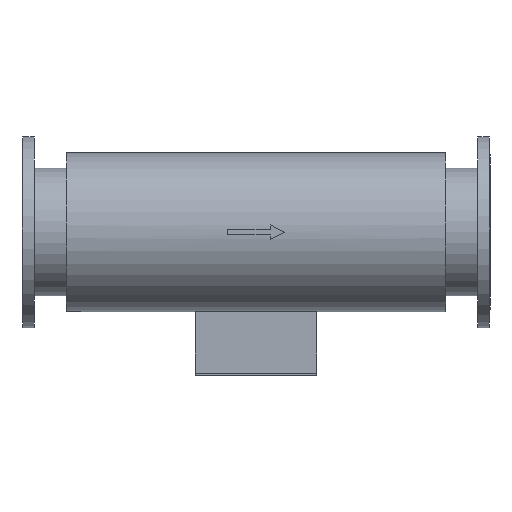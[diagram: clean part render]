
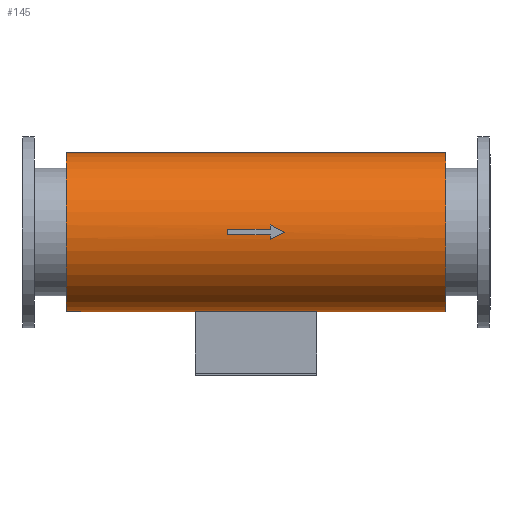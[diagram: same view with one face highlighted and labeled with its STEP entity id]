
A CAD part, front view. The second image highlights one B-rep face of the part: STEP entity #145.
In plain terms, the highlighted cylindrical face has radius 166.3 mm (diameter 332.6 mm), a partial arc.
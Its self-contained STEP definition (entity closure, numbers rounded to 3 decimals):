
#145=ADVANCED_FACE('',(#1264,#1265,#1266),#1263,.T.);
#1263=CYLINDRICAL_SURFACE('',#1898,166.3);
#1264=FACE_OUTER_BOUND('',#1899,.T.);
#1265=FACE_BOUND('',#1900,.T.);
#1266=FACE_BOUND('',#1901,.T.);
#1895=CARTESIAN_POINT('',(603.,0.,0.));
#1896=DIRECTION('',(1.,0.,0.));
#1897=DIRECTION('',(0.,0.009,1.));
#1898=AXIS2_PLACEMENT_3D('',#1895,#1896,#1897);
#1899=EDGE_LOOP('',(#2462,#2463,#2464,#2465,#2466,#2467));
#1900=EDGE_LOOP('',(#2468,#2469,#2470,#2471,#2472,#2473,#2474));
#1901=EDGE_LOOP('',(#2475,#2476,#2477,#2478));
#2462=ORIENTED_EDGE('',*,*,#2663,.T.);
#2463=ORIENTED_EDGE('',*,*,#2665,.T.);
#2464=ORIENTED_EDGE('',*,*,#2784,.F.);
#2465=ORIENTED_EDGE('',*,*,#2668,.F.);
#2466=ORIENTED_EDGE('',*,*,#2670,.F.);
#2467=ORIENTED_EDGE('',*,*,#2785,.T.);
#2468=ORIENTED_EDGE('',*,*,#2683,.F.);
#2469=ORIENTED_EDGE('',*,*,#2707,.F.);
#2470=ORIENTED_EDGE('',*,*,#2689,.F.);
#2471=ORIENTED_EDGE('',*,*,#2706,.F.);
#2472=ORIENTED_EDGE('',*,*,#2704,.F.);
#2473=ORIENTED_EDGE('',*,*,#2702,.F.);
#2474=ORIENTED_EDGE('',*,*,#2700,.F.);
#2475=ORIENTED_EDGE('',*,*,#2545,.F.);
#2476=ORIENTED_EDGE('',*,*,#2542,.F.);
#2477=ORIENTED_EDGE('',*,*,#2539,.F.);
#2478=ORIENTED_EDGE('',*,*,#2537,.F.);
#2537=EDGE_CURVE('',#3051,#3058,#3059,.T.);
#2539=EDGE_CURVE('',#3058,#3071,#3072,.T.);
#2542=EDGE_CURVE('',#3071,#3091,#3092,.T.);
#2545=EDGE_CURVE('',#3091,#3051,#3111,.T.);
#2663=EDGE_CURVE('',#3935,#3936,#3937,.T.);
#2665=EDGE_CURVE('',#3936,#3943,#3950,.T.);
#2668=EDGE_CURVE('',#3970,#3971,#3972,.T.);
#2670=EDGE_CURVE('',#3978,#3970,#3985,.T.);
#2683=EDGE_CURVE('',#4068,#4075,#4076,.T.);
#2689=EDGE_CURVE('',#4108,#4115,#4116,.T.);
#2700=EDGE_CURVE('',#4075,#4187,#4188,.T.);
#2702=EDGE_CURVE('',#4187,#4200,#4201,.T.);
#2704=EDGE_CURVE('',#4200,#4213,#4214,.T.);
#2706=EDGE_CURVE('',#4213,#4108,#4226,.T.);
#2707=EDGE_CURVE('',#4115,#4068,#4232,.T.);
#2784=EDGE_CURVE('',#3971,#3943,#4698,.T.);
#2785=EDGE_CURVE('',#3978,#3935,#4704,.T.);
#3051=VERTEX_POINT('',#4889);
#3058=VERTEX_POINT('',#4893);
#3059=LINE('',#4894,#4895);
#3071=VERTEX_POINT('',#4900);
#3072=CIRCLE('',#4904,166.3);
#3091=VERTEX_POINT('',#4912);
#3092=LINE('',#4913,#4914);
#3111=CIRCLE('',#4926,166.3);
#3935=VERTEX_POINT('',#5510);
#3936=VERTEX_POINT('',#5511);
#3937=CIRCLE('',#5515,166.3);
#3943=VERTEX_POINT('',#5516);
#3950=CIRCLE('',#5524,166.3);
#3970=VERTEX_POINT('',#5535);
#3971=VERTEX_POINT('',#5536);
#3972=CIRCLE('',#5540,166.3);
#3978=VERTEX_POINT('',#5541);
#3985=CIRCLE('',#5549,166.3);
#4068=VERTEX_POINT('',#5598);
#4075=VERTEX_POINT('',#5602);
#4076=LINE('',#5603,#5604);
#4108=VERTEX_POINT('',#5621);
#4115=VERTEX_POINT('',#5625);
#4116=(BOUNDED_CURVE() B_SPLINE_CURVE(2,(#5626,#5627,#5628),.UNSPECIFIED.,.F.,.F.) B_SPLINE_CURVE_WITH_KNOTS((3,3),(-1.571,-1.48),.UNSPECIFIED.) CURVE() GEOMETRIC_REPRESENTATION_ITEM() RATIONAL_B_SPLINE_CURVE((1.,0.999,1.)) REPRESENTATION_ITEM('') );
#4187=VERTEX_POINT('',#5666);
#4188=CIRCLE('',#5670,166.3);
#4200=VERTEX_POINT('',#5674);
#4201=LINE('',#5675,#5676);
#4213=VERTEX_POINT('',#5681);
#4214=CIRCLE('',#5685,166.3);
#4226=(BOUNDED_CURVE() B_SPLINE_CURVE(2,(#5689,#5690,#5691),.UNSPECIFIED.,.F.,.F.) B_SPLINE_CURVE_WITH_KNOTS((3,3),(-4.803,-4.712),.UNSPECIFIED.) CURVE() GEOMETRIC_REPRESENTATION_ITEM() RATIONAL_B_SPLINE_CURVE((1.,0.999,1.)) REPRESENTATION_ITEM('') );
#4232=CIRCLE('',#5695,166.3);
#4698=(BOUNDED_CURVE() B_SPLINE_CURVE(1,(#5862,#5863),.UNSPECIFIED.,.F.,.F.) B_SPLINE_CURVE_WITH_KNOTS((2,2),(0.012,0.988),.UNSPECIFIED.) CURVE() GEOMETRIC_REPRESENTATION_ITEM() RATIONAL_B_SPLINE_CURVE((1.,1.)) REPRESENTATION_ITEM('') );
#4704=(BOUNDED_CURVE() B_SPLINE_CURVE(1,(#5864,#5865),.UNSPECIFIED.,.F.,.F.) B_SPLINE_CURVE_WITH_KNOTS((2,2),(0.012,0.988),.UNSPECIFIED.) CURVE() GEOMETRIC_REPRESENTATION_ITEM() RATIONAL_B_SPLINE_CURVE((0.889,0.889)) REPRESENTATION_ITEM('') );
#4889=CARTESIAN_POINT('',(127.5,-4.5,-166.239));
#4893=CARTESIAN_POINT('',(-127.5,-4.5,-166.239));
#4894=CARTESIAN_POINT('',(127.5,-4.5,-166.239));
#4895=VECTOR('',#4896,255.);
#4896=DIRECTION('',(-1.,0.,0.));
#4900=CARTESIAN_POINT('',(-127.5,4.5,-166.239));
#4901=CARTESIAN_POINT('',(-127.5,0.,0.));
#4902=DIRECTION('',(1.,0.,0.));
#4903=DIRECTION('',(0.,0.027,-1.));
#4904=AXIS2_PLACEMENT_3D('',#4901,#4902,#4903);
#4912=CARTESIAN_POINT('',(127.5,4.5,-166.239));
#4913=CARTESIAN_POINT('',(-127.5,4.5,-166.239));
#4914=VECTOR('',#4915,255.);
#4915=DIRECTION('',(1.,0.,0.));
#4923=CARTESIAN_POINT('',(127.5,0.,0.));
#4924=DIRECTION('',(-1.,0.,0.));
#4925=DIRECTION('',(0.,0.,1.));
#4926=AXIS2_PLACEMENT_3D('',#4923,#4924,#4925);
#5510=CARTESIAN_POINT('',(397.,119.737,-115.407));
#5511=CARTESIAN_POINT('',(397.,0.,-166.3));
#5512=CARTESIAN_POINT('',(397.,0.,0.));
#5513=DIRECTION('',(-1.,0.,0.));
#5514=DIRECTION('',(0.,0.,-1.));
#5515=AXIS2_PLACEMENT_3D('',#5512,#5513,#5514);
#5516=CARTESIAN_POINT('',(397.,1.451,166.294));
#5521=CARTESIAN_POINT('',(397.,0.,0.));
#5522=DIRECTION('',(-1.,0.,0.));
#5523=DIRECTION('',(0.,0.,-1.));
#5524=AXIS2_PLACEMENT_3D('',#5521,#5522,#5523);
#5535=CARTESIAN_POINT('',(-397.,0.,-166.3));
#5536=CARTESIAN_POINT('',(-397.,1.451,166.294));
#5537=CARTESIAN_POINT('',(-397.,0.,0.));
#5538=DIRECTION('',(-1.,0.,0.));
#5539=DIRECTION('',(0.,0.,-1.));
#5540=AXIS2_PLACEMENT_3D('',#5537,#5538,#5539);
#5541=CARTESIAN_POINT('',(-397.,119.737,-115.407));
#5546=CARTESIAN_POINT('',(-397.,0.,0.));
#5547=DIRECTION('',(-1.,0.,0.));
#5548=DIRECTION('',(0.,0.,-1.));
#5549=AXIS2_PLACEMENT_3D('',#5546,#5547,#5548);
#5598=CARTESIAN_POINT('',(30.,-166.192,6.));
#5602=CARTESIAN_POINT('',(-60.,-166.192,6.));
#5603=CARTESIAN_POINT('',(30.,-166.192,6.));
#5604=VECTOR('',#5605,90.);
#5605=DIRECTION('',(-1.,0.,0.));
#5621=CARTESIAN_POINT('',(60.,-166.3,0.));
#5625=CARTESIAN_POINT('',(30.,-165.622,15.));
#5626=CARTESIAN_POINT('',(60.,-166.3,0.));
#5627=CARTESIAN_POINT('',(44.969,-166.3,7.515));
#5628=CARTESIAN_POINT('',(30.,-165.622,15.));
#5666=CARTESIAN_POINT('',(-60.,-166.192,-6.));
#5667=CARTESIAN_POINT('',(-60.,0.,0.));
#5668=DIRECTION('',(1.,0.,0.));
#5669=DIRECTION('',(0.,0.,-1.));
#5670=AXIS2_PLACEMENT_3D('',#5667,#5668,#5669);
#5674=CARTESIAN_POINT('',(30.,-166.192,-6.));
#5675=CARTESIAN_POINT('',(-60.,-166.192,-6.));
#5676=VECTOR('',#5677,90.);
#5677=DIRECTION('',(1.,0.,0.));
#5681=CARTESIAN_POINT('',(30.,-165.622,-15.));
#5682=CARTESIAN_POINT('',(30.,0.,0.));
#5683=DIRECTION('',(1.,0.,0.));
#5684=DIRECTION('',(0.,0.,-1.));
#5685=AXIS2_PLACEMENT_3D('',#5682,#5683,#5684);
#5689=CARTESIAN_POINT('',(30.,-165.622,-15.));
#5690=CARTESIAN_POINT('',(44.969,-166.3,-7.515));
#5691=CARTESIAN_POINT('',(60.,-166.3,0.));
#5692=CARTESIAN_POINT('',(30.,0.,0.));
#5693=DIRECTION('',(1.,0.,0.));
#5694=DIRECTION('',(0.,0.,-1.));
#5695=AXIS2_PLACEMENT_3D('',#5692,#5693,#5694);
#5862=CARTESIAN_POINT('',(-397.,1.451,166.294));
#5863=CARTESIAN_POINT('',(397.,1.451,166.294));
#5864=CARTESIAN_POINT('',(-397.,119.738,-115.406));
#5865=CARTESIAN_POINT('',(397.,119.738,-115.406));
